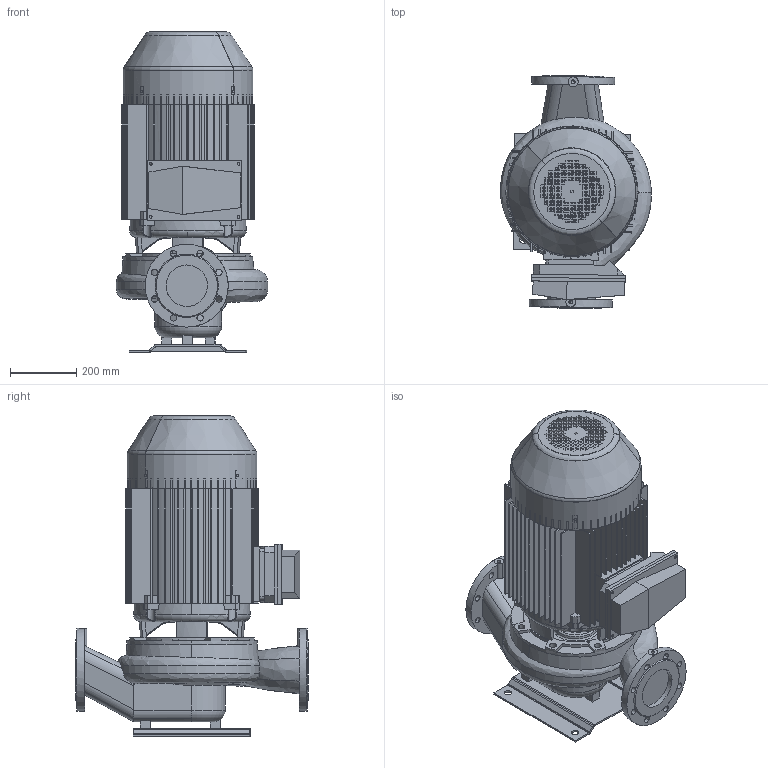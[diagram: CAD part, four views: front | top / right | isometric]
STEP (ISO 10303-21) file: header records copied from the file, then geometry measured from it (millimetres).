
FILE_DESCRIPTION(('STEP AP214'),'1');
FILE_NAME('export.stp','2018-05-28T10:24:19',(' '),(' '),'Spatial InterOp 3D',' ',' ');
FILE_SCHEMA(('AUTOMOTIVE_DESIGN { 1 0 10303 214 1 1 1 1 }'));
Length unit declared in the file: millimetre
Products named in the file (14): W_AL11292370KP205; V_TL110611291154; V_PPAL1129; P100496; P100495; P100342; R200363; R200118; V_MKP205-J1-F31; R200144; R200138; R200137; R200147; R200368
Assembly tree (14 placements, depth 4):
  W_AL11292370KP205
    V_TL110611291154
    V_PPAL1129
    P100496
      P100495  x2
      P100342
    V_MKP205-J1-F31
      R200363
        R200118
      R200144
      R200138
      R200137
      R200147
      R200368
Bounding box: 455.77 x 701.97 x 965 mm (x, y, z)
Volume: 43811304.4 mm3; surface area: 5299272 mm2
Topology: 11 solids, 11 shells, 1906 faces, 5556 edges, 3672 vertices
Faces by surface type: plane 1326, cylinder 444, cone 62, torus 41, bspline 33
Entity records: 106215 total; most frequent: CARTESIAN_POINT 16686, ORIENTED_EDGE 11068, DIRECTION 10109, STYLED_ITEM 6354, PRESENTATION_STYLE_ASSIGNMENT 6354, COLOUR_RGB 6354, EDGE_CURVE 5534, CURVE_STYLE 4444
